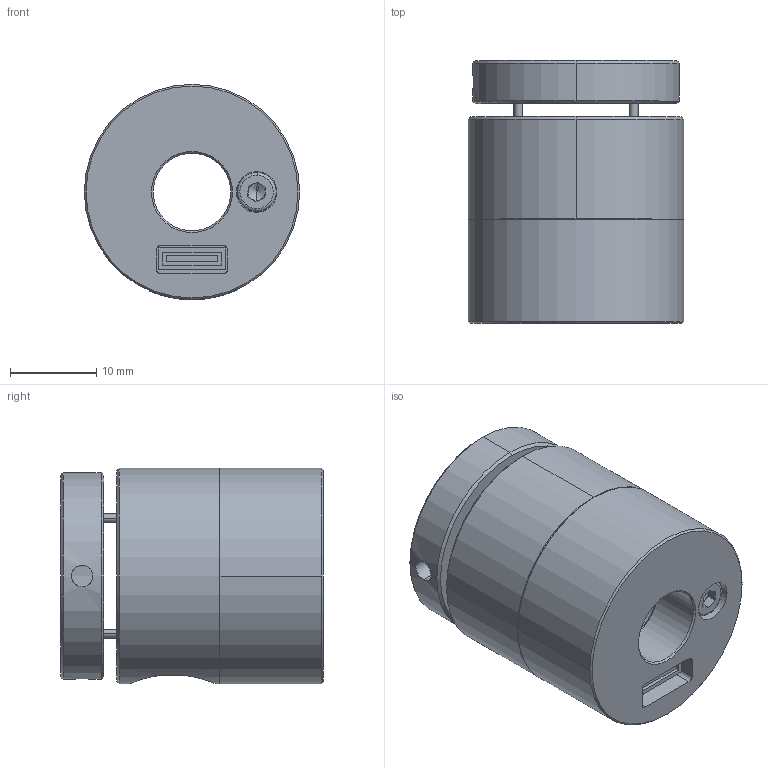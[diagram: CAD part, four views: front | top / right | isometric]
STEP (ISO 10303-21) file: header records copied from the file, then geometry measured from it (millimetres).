
FILE_DESCRIPTION (( 'STEP AP214' ), '1' );
FILE_NAME ('梜賑啊噩5.STEP', '2024-01-16T00:51:58', ( 'Sky123.Org' ), ( 'Sky123.Org' ), 'SwSTEP 2.0', 'SolidWorks 2016', '' );
FILE_SCHEMA (( 'AUTOMOTIVE_DESIGN' ));
Length unit declared in the file: millimetre
Products named in the file (1): 梜賑啊噩5
Bounding box: 25 x 30.5 x 25 mm (x, y, z)
Volume: 9028.4 mm3; surface area: 7613.9 mm2
Topology: 8 solids, 8 shells, 168 faces, 397 edges, 244 vertices
Faces by surface type: plane 67, cylinder 63, cone 36, torus 2
Entity records: 6908 total; most frequent: CARTESIAN_POINT 1014, DIRECTION 861, ORIENTED_EDGE 770, EDGE_CURVE 385, AXIS2_PLACEMENT_3D 323, VERTEX_POINT 244, VECTOR 215, LINE 215
